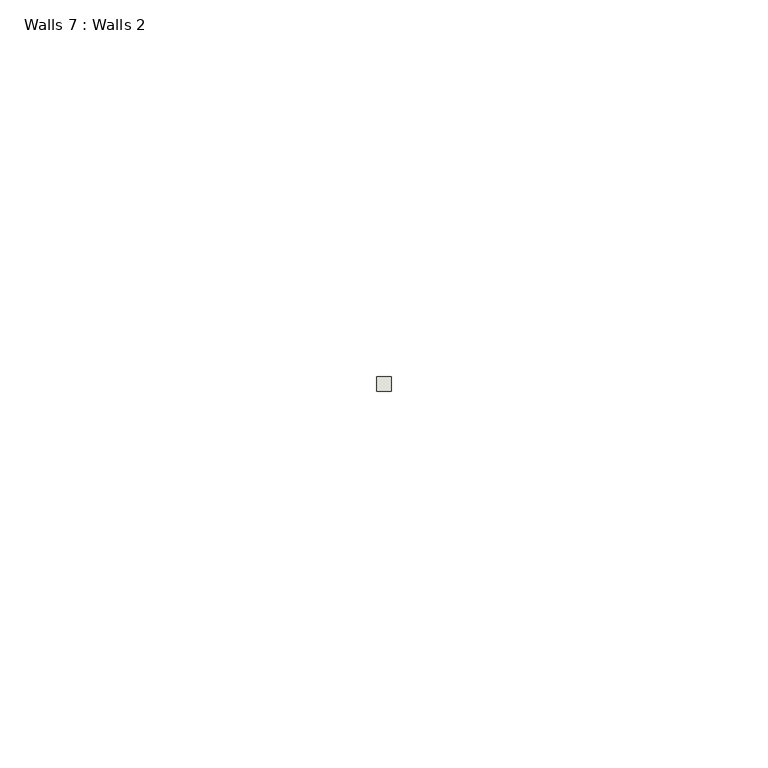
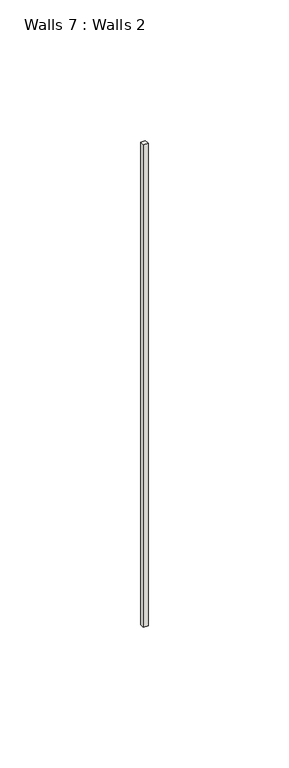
"""IFC4 building model written with IfcOpenShell, lengths in millimetres: wall geometry, Walls 7 : Walls 2."""

import ifcopenshell
import ifcopenshell.guid

model = None  # the IFC model being written
_history = None  # IfcOwnerHistory: only IFC2X3 demands one
_inside = {}  # id of a spatial element -> (the spatial element, [elements in it])
_under = {}  # id of a project, library or spatial element -> (it, [spatial elements below it])
_declared = {}  # id of a project -> (the project, [libraries it declares])
_typed = {}  # id of a type object -> (the type object, [elements of that type])
_made_of = {}  # id of a material, layer set ... -> (it, [elements and type objects made of it])


def new_model(schema):
    """Start an empty IFC model of exactly this schema.

    Asked for "IFC4X3", IfcOpenShell would pick the latest addendum, in which some entities
    have other attributes; the version numbers below select the first issue.
    IFC2X3 requires an IfcOwnerHistory on every rooted entity: one is made here for all.
    """
    global model, _history
    if schema == "IFC4X3":
        model = ifcopenshell.file(schema_version=(4, 3, 0, 0))
    else:
        model = ifcopenshell.file(schema=schema)
    _inside.clear()
    _under.clear()
    _declared.clear()
    _typed.clear()
    _made_of.clear()
    _history = None
    if model.schema == "IFC2X3":
        org = make("IfcOrganization", Name="unknown")
        user = make(
            "IfcPersonAndOrganization",
            ThePerson=make("IfcPerson", FamilyName="unknown"),
            TheOrganization=org,
        )
        app = make(
            "IfcApplication",
            ApplicationDeveloper=org,
            Version="unknown",
            ApplicationFullName="unknown",
            ApplicationIdentifier="unknown",
        )
        _history = make(
            "IfcOwnerHistory",
            OwningUser=user,
            OwningApplication=app,
            ChangeAction="ADDED",
            CreationDate=0,
        )
    return model


def make(cls, **values):
    """One entity of the class cls with the attributes given. An attribute that is None is left unset."""
    return model.create_entity(
        cls, **{name: value for name, value in values.items() if value is not None}
    )


def rooted(cls, **values):
    """An entity with a GlobalId (a new one), such as an element, a storey or a relation."""
    return make(cls, GlobalId=ifcopenshell.guid.new(), OwnerHistory=_history, **values)


def si_unit(unit_type, name, prefix=None):
    """IfcSIUnit, for example si_unit("LENGTHUNIT", "METRE", prefix="MILLI")."""
    return make("IfcSIUnit", UnitType=unit_type, Prefix=prefix, Name=name)


def assignment(units):
    """IfcUnitAssignment: the units of a project."""
    return None if units is None else make("IfcUnitAssignment", Units=units)


def point(xyz):
    """IfcCartesianPoint."""
    return None if xyz is None else make("IfcCartesianPoint", Coordinates=xyz)


def direction(xyz):
    """IfcDirection."""
    return None if xyz is None else make("IfcDirection", DirectionRatios=xyz)


def frame(location, z_axis=None, x_axis=None):
    """IfcAxis2Placement3D, a coordinate frame: its origin and axes. An axis left out is left unset."""
    return make(
        "IfcAxis2Placement3D",
        Location=point(location),
        Axis=direction(z_axis),
        RefDirection=direction(x_axis),
    )


def origin():
    """The frame at (0, 0, 0) with its axes left unset."""
    return frame((0.0, 0.0, 0.0))


def place(relative_to, where):
    """IfcLocalPlacement: puts the frame where relative to a parent placement (None: the world)."""
    return make(
        "IfcLocalPlacement", PlacementRelTo=relative_to, RelativePlacement=where
    )


def context(
    kind, dimensions, precision=None, world=None, true_north=None, identifier=None
):
    """IfcGeometricRepresentationContext, for example the 3D "Model" context."""
    return make(
        "IfcGeometricRepresentationContext",
        ContextIdentifier=identifier,
        ContextType=kind,
        CoordinateSpaceDimension=dimensions,
        Precision=precision,
        WorldCoordinateSystem=world,
        TrueNorth=true_north,
    )


def project(units=None, contexts=None):
    """IfcProject with its units and contexts."""
    return rooted(
        "IfcProject",
        Name="project",
        RepresentationContexts=contexts,
        UnitsInContext=assignment(units),
    )


def spatial(cls, under=None, at=None, **own):
    """A site, building, storey or space (cls), placed at a placement, below another one or the project."""
    s = rooted(cls, ObjectPlacement=at, **own)
    if under is not None:
        _under.setdefault(under.id(), (under, []))[1].append(s)
    return s


def polyline(points):
    """IfcPolyline through the points."""
    return make("IfcPolyline", Points=[point(p) for p in points])


def outline(outer, holes=None, kind="AREA"):
    """IfcArbitraryClosedProfileDef: a profile drawn as a closed curve; with holes, ...WithVoids."""
    if holes is None:
        return make("IfcArbitraryClosedProfileDef", ProfileType=kind, OuterCurve=outer)
    return make(
        "IfcArbitraryProfileDefWithVoids",
        ProfileType=kind,
        OuterCurve=outer,
        InnerCurves=holes,
    )


def extrude(swept, where, along, depth):
    """IfcExtrudedAreaSolid: the profile swept, set in the frame where, extruded along a direction by depth."""
    return make(
        "IfcExtrudedAreaSolid",
        SweptArea=swept,
        Position=where,
        ExtrudedDirection=direction(along),
        Depth=depth,
    )


def shape(context_of_items, identifier, shape_type, items):
    """IfcShapeRepresentation: the items that make up one representation, for example the "Body"."""
    return make(
        "IfcShapeRepresentation",
        ContextOfItems=context_of_items,
        RepresentationIdentifier=identifier,
        RepresentationType=shape_type,
        Items=items,
    )


def source(mapping_origin, context_of_items, identifier, shape_type, items):
    """IfcRepresentationMap: a shape defined once, which mapped items show again and again."""
    return make(
        "IfcRepresentationMap",
        MappingOrigin=mapping_origin,
        MappedRepresentation=shape(context_of_items, identifier, shape_type, items),
    )


def transform(
    local_origin,
    x_axis=None,
    y_axis=None,
    z_axis=None,
    scale=None,
    scale2=None,
    scale3=None,
    uniform=True,
):
    """IfcCartesianTransformationOperator3D, or its non-uniform kind. x_axis, y_axis, z_axis: its Axis1, 2, 3."""
    if uniform:
        return make(
            "IfcCartesianTransformationOperator3D",
            Axis1=direction(x_axis),
            Axis2=direction(y_axis),
            LocalOrigin=point(local_origin),
            Scale=scale,
            Axis3=direction(z_axis),
        )
    return make(
        "IfcCartesianTransformationOperator3DnonUniform",
        Axis1=direction(x_axis),
        Axis2=direction(y_axis),
        LocalOrigin=point(local_origin),
        Scale=scale,
        Axis3=direction(z_axis),
        Scale2=scale2,
        Scale3=scale3,
    )


def mapped(mapping_source, mapping_target):
    """IfcMappedItem: shows the shape of a source again, moved by a transform."""
    return make(
        "IfcMappedItem", MappingSource=mapping_source, MappingTarget=mapping_target
    )


def made_of(thing, what):
    """Note that an element or type object is made of a material, layer set ...; save() writes the relation."""
    if what is not None:
        _made_of.setdefault(what.id(), (what, []))[1].append(thing)
    return thing


def element(
    cls,
    number,
    at=None,
    inside=None,
    cuts=None,
    type_object=None,
    material=None,
    context=None,
    identifier="Body",
    shape_type=None,
    held_by="IfcProductDefinitionShape",
    body=None,
    shapes=None,
    **own,
):
    """One element of the class cls, such as IfcWall. Its Tag is "e" and its number.

    at: its placement. inside: the storey or other place that contains it. cuts: it is an
    opening in that element (IfcRelVoidsElement). A single representation is given by context,
    identifier, shape_type and body (its items); several are given by shapes. held_by: the class
    of the entity that holds the representations. save() writes the other relations.
    """
    e = rooted(cls, Tag="e%d" % number, ObjectPlacement=at, **own)
    if body is not None:
        shapes = [shape(context, identifier, shape_type, body)]
    if shapes is not None:
        e.Representation = make(held_by, Representations=shapes)
    if inside is not None:
        _inside.setdefault(inside.id(), (inside, []))[1].append(e)
    if cuts is not None:
        rooted(
            "IfcRelVoidsElement", RelatingBuildingElement=cuts, RelatedOpeningElement=e
        )
    if type_object is not None:
        _typed.setdefault(type_object.id(), (type_object, []))[1].append(e)
    return made_of(e, material)


def aggregate(whole, parts):
    """IfcRelAggregates: a whole, such as a stair, and the parts it consists of."""
    return rooted("IfcRelAggregates", RelatingObject=whole, RelatedObjects=parts)


def save(model, path):
    """Write the relations noted so far, then the file.

    IfcRelAggregates (storeys below a building ...), IfcRelContainedInSpatialStructure (elements
    in a storey), IfcRelDefinesByType, IfcRelAssociatesMaterial and IfcRelDeclares: one each for
    every whole, place, type object, material and project.
    """
    for whole, parts in _under.values():
        aggregate(whole, parts)
    for where, things in _inside.values():
        rooted(
            "IfcRelContainedInSpatialStructure",
            RelatedElements=things,
            RelatingStructure=where,
        )
    for kind, things in _typed.values():
        rooted("IfcRelDefinesByType", RelatedObjects=things, RelatingType=kind)
    for what, things in _made_of.values():
        rooted("IfcRelAssociatesMaterial", RelatedObjects=things, RelatingMaterial=what)
    for by, libraries in _declared.values():
        rooted("IfcRelDeclares", RelatingContext=by, RelatedDefinitions=libraries)
    model.write(path)


def walls_7_walls_2_4189c416(model_context):
    return source(origin(), model_context, "Body", "SweptSolid", [
        extrude(outline(polyline([(5730.0970664, 5610.2116343), (5728.1276469, 5610.2116343), (5728.1276469, 5612.1645834), (5730.0970664, 5612.1645834), (5730.0970664, 5610.2116343)])), frame((0.0, 0.0, 1999.9166594), z_axis=(0.0, 0.0, 1.0), x_axis=(1.0, 0.0, 0.0)), (0.0, 0.0, 1.0), 209.4776488),
    ])


if __name__ == "__main__":
    model = new_model("IFC4")
    model_context = context("Model", 3, world=origin())
    ifc_project = project(units=[si_unit("LENGTHUNIT", "METRE", prefix="MILLI")], contexts=[model_context])
    site = spatial("IfcSite", under=ifc_project)
    building = spatial("IfcBuilding", under=site)
    placement = place(None, origin())
    walls_7_walls_2_shape = walls_7_walls_2_4189c416(model_context)
    element("IfcWall", 1, ObjectType="Walls 7 : Walls 2", at=placement, inside=building, context=model_context, shape_type="MappedRepresentation", body=[
        mapped(walls_7_walls_2_shape, transform((0.0, 0.0, 0.0), x_axis=(1.0, 0.0, 0.0), y_axis=(0.0, 1.0, 0.0), z_axis=(0.0, 0.0, 1.0))),
    ])
    save(model, "model.ifc")
